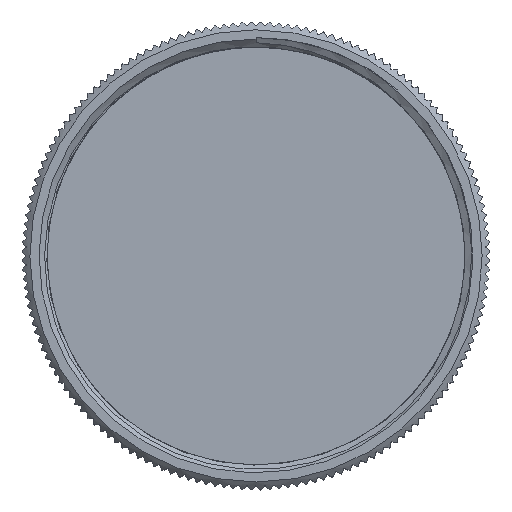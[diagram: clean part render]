
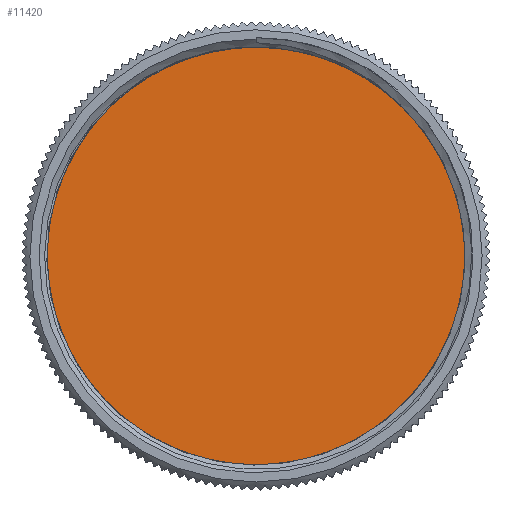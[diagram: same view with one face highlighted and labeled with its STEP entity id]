
A CAD part, top view. The second image highlights one B-rep face of the part: STEP entity #11420.
In plain terms, the highlighted planar face has unit normal (0, 0, 1).
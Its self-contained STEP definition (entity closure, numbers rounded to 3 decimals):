
#1425 = VERTEX_POINT ( 'NONE', #23353 ) ;
#2547 = ORIENTED_EDGE ( 'NONE', *, *, #25504, .T. ) ;
#7879 = DIRECTION ( 'NONE',  ( -1., 0., 0. ) ) ;
#11420 = ADVANCED_FACE ( 'NONE', ( #31646 ), #31531, .T. ) ;
#18804 = DIRECTION ( 'NONE',  ( 1., 0., 0. ) ) ;
#23353 = CARTESIAN_POINT ( 'NONE',  ( -22.3, 0., -8.71 ) ) ;
#23483 = CIRCLE ( 'NONE', #29046, 22.3 ) ;
#25504 = EDGE_CURVE ( 'NONE', #1425, #1425, #23483, .T. ) ;
#29046 = AXIS2_PLACEMENT_3D ( 'NONE', #31558, #40428, #7879 ) ;
#31257 = CARTESIAN_POINT ( 'NONE',  ( 0., 0., -8.71 ) ) ;
#31531 = PLANE ( 'NONE',  #37468 ) ;
#31558 = CARTESIAN_POINT ( 'NONE',  ( 0., 0., -8.71 ) ) ;
#31646 = FACE_OUTER_BOUND ( 'NONE', #33872, .T. ) ;
#33872 = EDGE_LOOP ( 'NONE', ( #2547 ) ) ;
#34534 = DIRECTION ( 'NONE',  ( 0., 0., 1. ) ) ;
#37468 = AXIS2_PLACEMENT_3D ( 'NONE', #31257, #34534, #18804 ) ;
#40428 = DIRECTION ( 'NONE',  ( 0., 0., 1. ) ) ;
